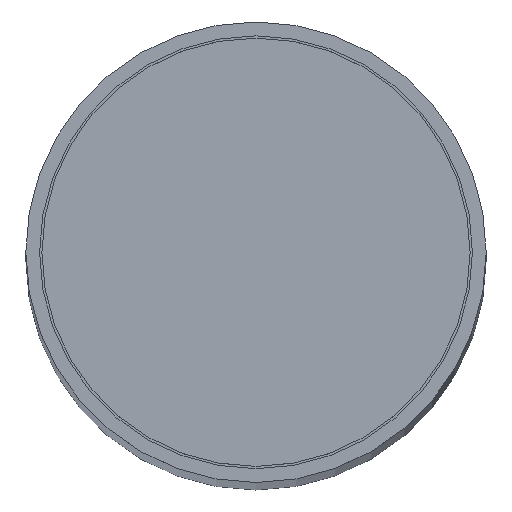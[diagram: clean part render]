
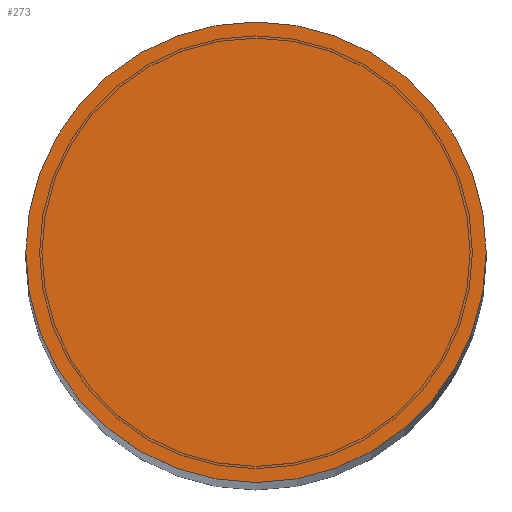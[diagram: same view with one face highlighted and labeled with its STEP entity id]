
A CAD part, top view. The second image highlights one B-rep face of the part: STEP entity #273.
In plain terms, the highlighted planar face has unit normal (0, 0, 1).
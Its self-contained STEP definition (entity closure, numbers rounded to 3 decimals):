
#50=PLANE('',#339);
#78=FACE_OUTER_BOUND('',#104,.T.);
#104=EDGE_LOOP('',(#243));
#143=CIRCLE('',#333,50.);
#162=VERTEX_POINT('',#502);
#188=EDGE_CURVE('',#162,#162,#143,.T.);
#243=ORIENTED_EDGE('',*,*,#188,.F.);
#273=ADVANCED_FACE('',(#78),#50,.F.);
#333=AXIS2_PLACEMENT_3D('',#504,#416,#417);
#339=AXIS2_PLACEMENT_3D('',#513,#429,#430);
#416=DIRECTION('center_axis',(0.,0.,-1.));
#417=DIRECTION('ref_axis',(1.,0.,0.));
#429=DIRECTION('center_axis',(0.,0.,-1.));
#430=DIRECTION('ref_axis',(1.,0.,0.));
#502=CARTESIAN_POINT('',(-50.,0.,6.));
#504=CARTESIAN_POINT('Origin',(0.,0.,6.));
#513=CARTESIAN_POINT('Origin',(0.,0.,6.));
